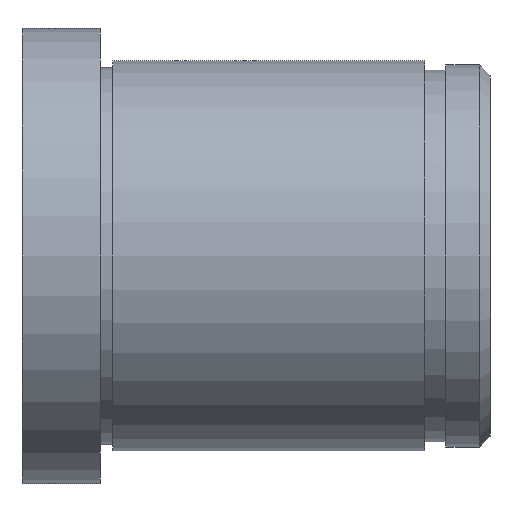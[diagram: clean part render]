
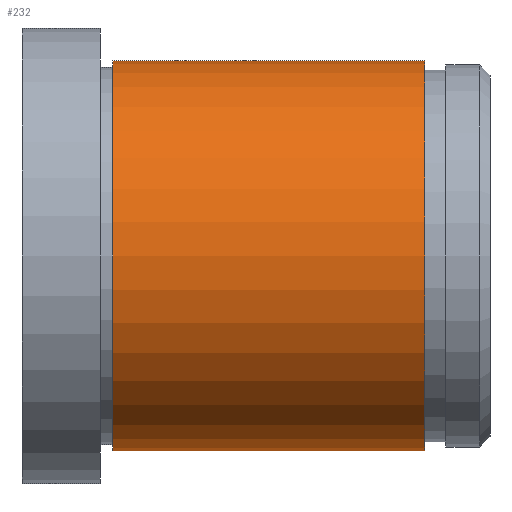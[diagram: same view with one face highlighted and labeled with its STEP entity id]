
A CAD part, front view. The second image highlights one B-rep face of the part: STEP entity #232.
In plain terms, the highlighted cylindrical face has radius 15 mm (diameter 30 mm), a full revolution.
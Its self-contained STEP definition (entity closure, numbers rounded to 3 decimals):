
#29=CYLINDRICAL_SURFACE('',#282,15.);
#42=FACE_OUTER_BOUND('',#61,.T.);
#61=EDGE_LOOP('',(#187,#188,#189,#190));
#74=LINE('',#417,#83);
#83=VECTOR('',#352,15.);
#100=CIRCLE('',#281,15.);
#101=CIRCLE('',#283,15.);
#118=VERTEX_POINT('',#412);
#119=VERTEX_POINT('',#415);
#142=EDGE_CURVE('',#118,#118,#100,.T.);
#143=EDGE_CURVE('',#119,#119,#101,.T.);
#144=EDGE_CURVE('',#119,#118,#74,.T.);
#187=ORIENTED_EDGE('',*,*,#143,.F.);
#188=ORIENTED_EDGE('',*,*,#144,.T.);
#189=ORIENTED_EDGE('',*,*,#142,.T.);
#190=ORIENTED_EDGE('',*,*,#144,.F.);
#232=ADVANCED_FACE('',(#42),#29,.T.);
#281=AXIS2_PLACEMENT_3D('',#413,#346,#347);
#282=AXIS2_PLACEMENT_3D('',#414,#348,#349);
#283=AXIS2_PLACEMENT_3D('',#416,#350,#351);
#346=DIRECTION('center_axis',(1.,0.,0.));
#347=DIRECTION('ref_axis',(0.,0.,-1.));
#348=DIRECTION('center_axis',(1.,0.,0.));
#349=DIRECTION('ref_axis',(0.,1.,0.));
#350=DIRECTION('center_axis',(1.,0.,0.));
#351=DIRECTION('ref_axis',(0.,0.,-1.));
#352=DIRECTION('',(-1.,0.,0.));
#412=CARTESIAN_POINT('',(7.,-15.,0.));
#413=CARTESIAN_POINT('Origin',(7.,0.,0.));
#414=CARTESIAN_POINT('Origin',(19.,0.,0.));
#415=CARTESIAN_POINT('',(31.,-15.,0.));
#416=CARTESIAN_POINT('Origin',(31.,0.,0.));
#417=CARTESIAN_POINT('',(19.,-15.,0.));
